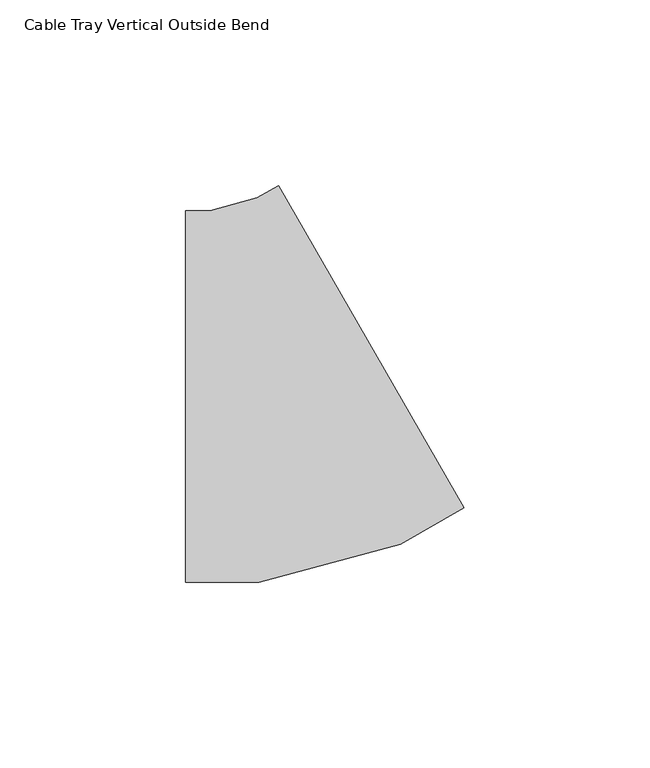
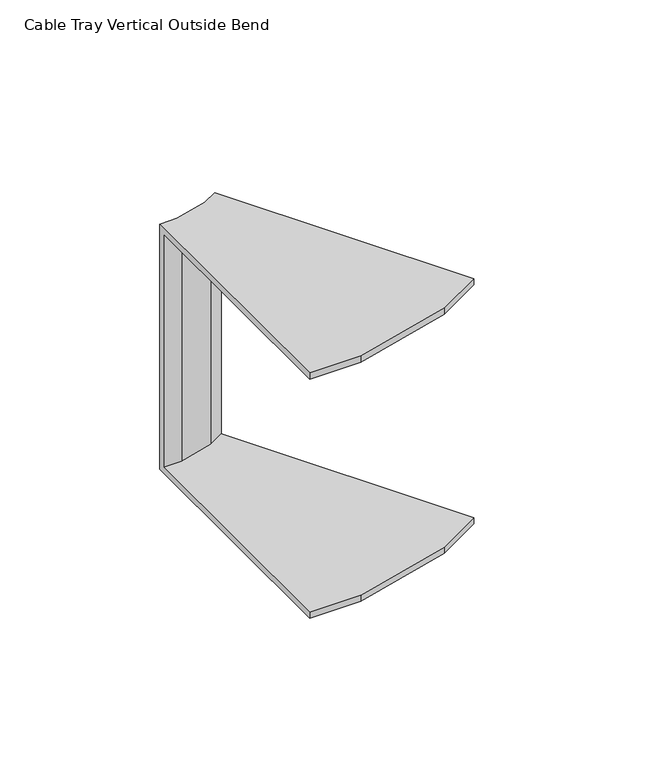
"""IFC4 building model written with IfcOpenShell, lengths in millimetres: cable carrier fitting geometry, Cable Tray Vertical Outside Bend : ELEC_ELV_TKG_N2402."""

from ifc_helpers import new_model, si_unit, origin, place, context, project, spatial, faceted_brep, source, transform, mapped, element, save


def cable_tray_vertical_outside_bend_58dbef8e(model_context):
    return source(origin(), model_context, "Body", "Brep", [
        faceted_brep([(-26.7949363, -50.0, 50.0), (-26.7949363, 50.0, 50.0), (-26.7949363, 50.0, -50.0), (-26.7949363, -50.0, -50.0), (-26.7949363, -50.0, -47.46), (-26.7949363, 47.46, -47.46), (-26.7949363, 47.46, 47.46), (-26.7949363, -50.0, 47.46), (48.205105, -29.9037868, 50.0), (48.205105, -29.9037868, 47.46), (-0.5249218, 54.4990336, 47.46), (-0.5249218, 54.4990336, -47.46), (48.205105, -29.9037868, -47.46), (48.205105, -29.9037868, -50.0), (-1.7949225, 56.6987377, -50.0), (-1.7949225, 56.6987377, 50.0), (-7.0470495, -50.0, 50.0), (31.1029365, -39.7777356, 50.0), (-7.4956453, 53.4074215, 50.0), (-20.2123073, 50.0, 50.0), (-20.2123073, 50.0, -50.0), (-7.4956453, 53.4074215, -50.0), (31.1029365, -39.7777356, -50.0), (-7.0470495, -50.0, -50.0), (-7.0470495, -50.0, -47.46), (31.1029365, -39.7777356, -47.46), (-6.5152414, 51.0405185, -47.46), (-19.8779098, 47.46, -47.46), (-19.8779098, 47.46, 47.46), (-6.5152414, 51.0405185, 47.46), (31.1029365, -39.7777356, 47.46), (-7.0470495, -50.0, 47.46)], [[[0, 1, 2, 3, 4, 5, 6, 7]], [[8, 9, 10, 11, 12, 13, 14, 15]], [[1, 0, 16, 17, 8, 15, 18, 19]], [[2, 1, 19, 20]], [[3, 2, 20, 21, 14, 13, 22, 23]], [[4, 3, 23, 24]], [[5, 4, 24, 25, 12, 11, 26, 27]], [[6, 5, 27, 28]], [[7, 6, 28, 29, 10, 9, 30, 31]], [[0, 7, 31, 16]], [[20, 19, 18, 21]], [[24, 23, 22, 25]], [[28, 27, 26, 29]], [[16, 31, 30, 17]], [[21, 18, 15, 14]], [[25, 22, 13, 12]], [[29, 26, 11, 10]], [[17, 30, 9, 8]]]),
    ])


if __name__ == "__main__":
    model = new_model("IFC4")
    model_context = context("Model", 3, world=origin())
    ifc_project = project(units=[si_unit("LENGTHUNIT", "METRE", prefix="MILLI")], contexts=[model_context])
    site = spatial("IfcSite", under=ifc_project)
    building = spatial("IfcBuilding", under=site)
    placement = place(None, origin())
    cable_tray_vertical_outside_bend_shape = cable_tray_vertical_outside_bend_58dbef8e(model_context)
    element("IfcCableCarrierFitting", 1, ObjectType="Cable Tray Vertical Outside Bend : ELEC_ELV_TKG_N2402", at=placement, inside=building, context=model_context, shape_type="MappedRepresentation", body=[
        mapped(cable_tray_vertical_outside_bend_shape, transform((0.0, 0.0, 0.0), x_axis=(1.0, 0.0, 0.0), y_axis=(0.0, 1.0, 0.0), z_axis=(0.0, 0.0, 1.0))),
    ])
    save(model, "model.ifc")
